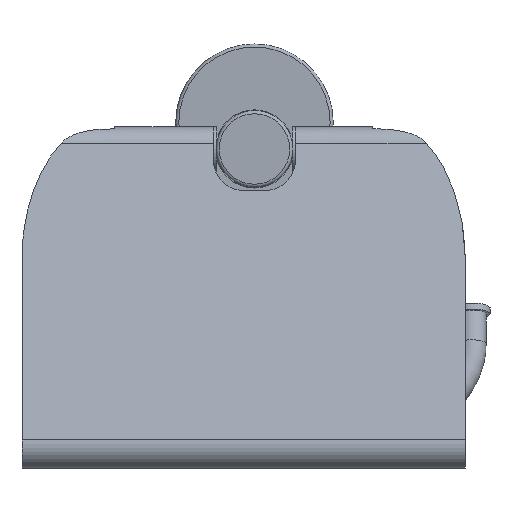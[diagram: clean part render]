
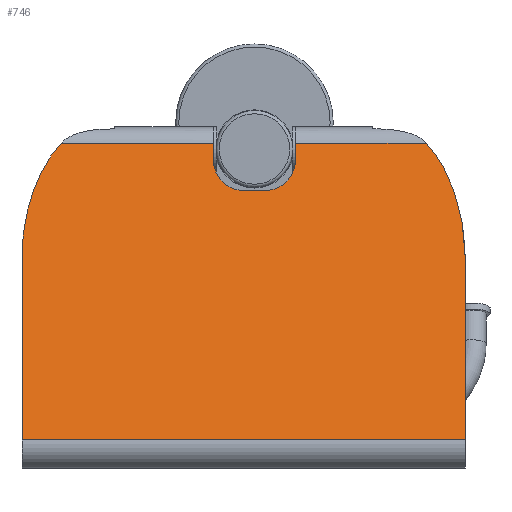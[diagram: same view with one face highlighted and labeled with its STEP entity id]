
A CAD part, front view. The second image highlights one B-rep face of the part: STEP entity #746.
In plain terms, the highlighted planar face has unit normal (0, -0.966, 0.259).
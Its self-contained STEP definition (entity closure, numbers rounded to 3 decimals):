
#97=ELLIPSE('',#2634,47.43,30.);
#98=ELLIPSE('',#2635,47.43,30.);
#189=PLANE('',#2638);
#292=FACE_OUTER_BOUND('',#1240,.T.);
#437=LINE('',#4063,#591);
#438=LINE('',#4069,#592);
#439=LINE('',#4071,#593);
#440=LINE('',#4073,#594);
#441=LINE('',#4077,#595);
#442=LINE('',#4079,#596);
#443=LINE('',#4083,#597);
#444=LINE('',#4087,#598);
#591=VECTOR('',#3261,1.);
#592=VECTOR('',#3268,1.);
#593=VECTOR('',#3269,1.);
#594=VECTOR('',#3270,1.);
#595=VECTOR('',#3273,1.);
#596=VECTOR('',#3274,1.);
#597=VECTOR('',#3277,1.);
#598=VECTOR('',#3280,1.);
#746=ADVANCED_FACE('',(#292),#189,.F.);
#946=CIRCLE('',#2636,10.);
#947=CIRCLE('',#2637,10.);
#1240=EDGE_LOOP('',(#1731,#1732,#1733,#1734,#1735,#1736,#1737,#1738,#1739,
#1740,#1741,#1742));
#1731=ORIENTED_EDGE('',*,*,#2327,.T.);
#1732=ORIENTED_EDGE('',*,*,#2329,.T.);
#1733=ORIENTED_EDGE('',*,*,#2330,.T.);
#1734=ORIENTED_EDGE('',*,*,#2331,.F.);
#1735=ORIENTED_EDGE('',*,*,#2332,.F.);
#1736=ORIENTED_EDGE('',*,*,#2333,.T.);
#1737=ORIENTED_EDGE('',*,*,#2334,.T.);
#1738=ORIENTED_EDGE('',*,*,#2335,.T.);
#1739=ORIENTED_EDGE('',*,*,#2336,.T.);
#1740=ORIENTED_EDGE('',*,*,#2337,.T.);
#1741=ORIENTED_EDGE('',*,*,#2338,.T.);
#1742=ORIENTED_EDGE('',*,*,#2339,.F.);
#2052=VERTEX_POINT('',#4062);
#2053=VERTEX_POINT('',#4064);
#2054=VERTEX_POINT('',#4068);
#2055=VERTEX_POINT('',#4070);
#2056=VERTEX_POINT('',#4072);
#2057=VERTEX_POINT('',#4074);
#2058=VERTEX_POINT('',#4076);
#2059=VERTEX_POINT('',#4078);
#2060=VERTEX_POINT('',#4080);
#2061=VERTEX_POINT('',#4082);
#2062=VERTEX_POINT('',#4084);
#2063=VERTEX_POINT('',#4086);
#2327=EDGE_CURVE('',#2053,#2052,#437,.T.);
#2329=EDGE_CURVE('',#2052,#2054,#97,.T.);
#2330=EDGE_CURVE('',#2054,#2055,#438,.T.);
#2331=EDGE_CURVE('',#2056,#2055,#439,.T.);
#2332=EDGE_CURVE('',#2057,#2056,#440,.T.);
#2333=EDGE_CURVE('',#2057,#2058,#98,.T.);
#2334=EDGE_CURVE('',#2058,#2059,#441,.T.);
#2335=EDGE_CURVE('',#2059,#2060,#442,.T.);
#2336=EDGE_CURVE('',#2060,#2061,#946,.T.);
#2337=EDGE_CURVE('',#2061,#2062,#443,.T.);
#2338=EDGE_CURVE('',#2062,#2063,#947,.T.);
#2339=EDGE_CURVE('',#2053,#2063,#444,.T.);
#2634=AXIS2_PLACEMENT_3D('',#4067,#3266,#3267);
#2635=AXIS2_PLACEMENT_3D('',#4075,#3271,#3272);
#2636=AXIS2_PLACEMENT_3D('',#4081,#3275,#3276);
#2637=AXIS2_PLACEMENT_3D('',#4085,#3278,#3279);
#2638=AXIS2_PLACEMENT_3D('',#4088,#3281,#3282);
#3261=DIRECTION('',(-1.,0.,0.));
#3266=DIRECTION('',(0.,-0.966,0.259));
#3267=DIRECTION('',(0.,-0.259,-0.966));
#3268=DIRECTION('',(0.,-0.259,-0.966));
#3269=DIRECTION('',(-1.,0.,0.));
#3270=DIRECTION('',(0.,-0.259,-0.966));
#3271=DIRECTION('',(0.,-0.966,0.259));
#3272=DIRECTION('',(0.,-0.259,-0.966));
#3273=DIRECTION('',(-1.,0.,0.));
#3274=DIRECTION('',(0.,-0.259,-0.966));
#3275=DIRECTION('',(0.,0.966,-0.259));
#3276=DIRECTION('',(0.,0.259,0.966));
#3277=DIRECTION('',(-1.,0.,0.));
#3278=DIRECTION('',(0.,0.966,-0.259));
#3279=DIRECTION('',(0.,0.259,0.966));
#3280=DIRECTION('',(0.,-0.259,-0.966));
#3281=DIRECTION('',(0.,0.966,-0.259));
#3282=DIRECTION('',(0.,-0.259,-0.966));
#4062=CARTESIAN_POINT('',(866.883,-25.697,293.351));
#4063=CARTESIAN_POINT('',(974.75,-25.697,293.351));
#4064=CARTESIAN_POINT('',(916.25,-25.697,293.351));
#4067=CARTESIAN_POINT('',(884.25,-35.707,255.994));
#4068=CARTESIAN_POINT('',(854.25,-35.707,255.994));
#4069=CARTESIAN_POINT('',(854.25,-25.697,293.351));
#4070=CARTESIAN_POINT('',(854.25,-51.411,197.386));
#4071=CARTESIAN_POINT('',(974.75,-51.411,197.386));
#4072=CARTESIAN_POINT('',(997.75,-51.411,197.386));
#4073=CARTESIAN_POINT('',(997.75,-25.697,293.351));
#4074=CARTESIAN_POINT('',(997.75,-35.707,255.994));
#4075=CARTESIAN_POINT('',(967.75,-35.707,255.994));
#4076=CARTESIAN_POINT('',(985.117,-25.697,293.351));
#4077=CARTESIAN_POINT('',(974.75,-25.697,293.351));
#4078=CARTESIAN_POINT('',(942.75,-25.697,293.351));
#4079=CARTESIAN_POINT('',(942.75,-25.697,293.351));
#4080=CARTESIAN_POINT('',(942.75,-27.211,287.7));
#4081=CARTESIAN_POINT('',(932.75,-27.211,287.7));
#4082=CARTESIAN_POINT('',(932.75,-29.8,278.041));
#4083=CARTESIAN_POINT('',(974.75,-29.8,278.041));
#4084=CARTESIAN_POINT('',(926.25,-29.8,278.041));
#4085=CARTESIAN_POINT('',(926.25,-27.211,287.7));
#4086=CARTESIAN_POINT('',(916.25,-27.211,287.7));
#4087=CARTESIAN_POINT('',(916.25,-25.697,293.351));
#4088=CARTESIAN_POINT('',(974.75,-25.697,293.351));
